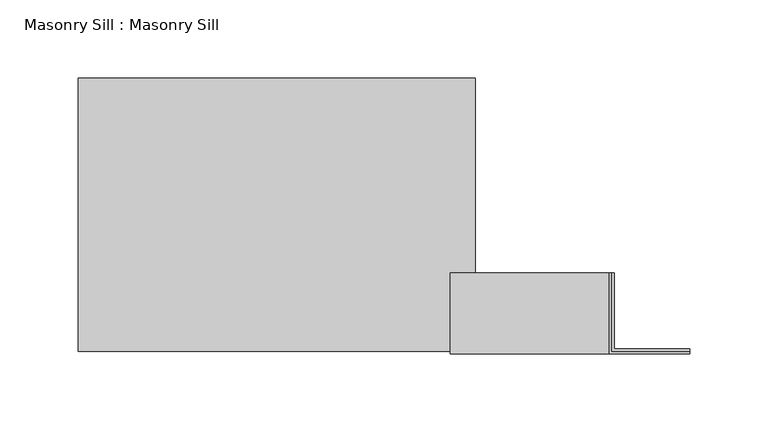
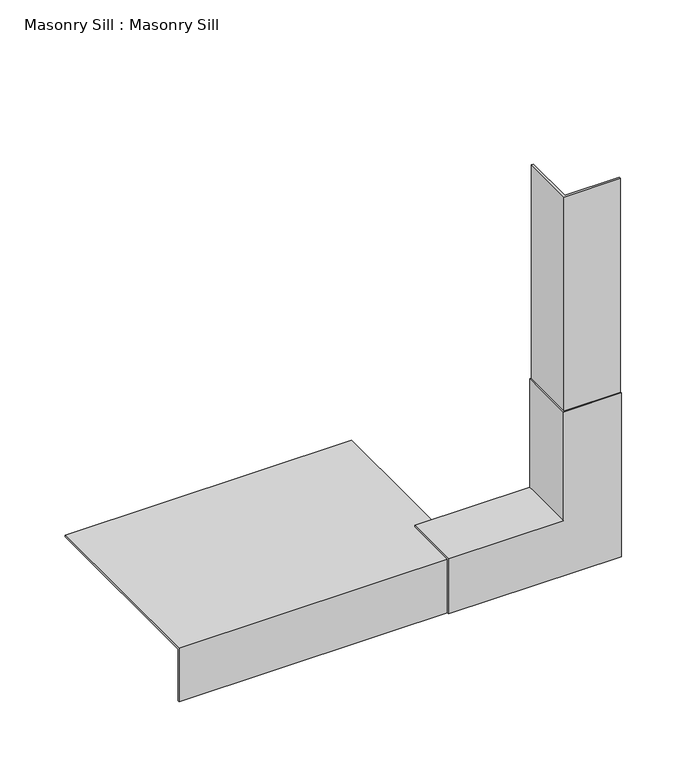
"""IFC4 building model written with IfcOpenShell, lengths in millimetres: proxy geometry, Masonry Sill : Masonry Sill."""

from ifc_helpers import new_model, si_unit, frame, origin, place, context, project, spatial, polyline, outline, extrude, faceted_brep, source, transform, mapped, element, save


def masonry_sill_masonry_sill_39c7edd1(model_context):
    return source(origin(), model_context, "Body", "SolidModel", [
        extrude(outline(polyline([(26855.8851773, 632.3941297), (26855.8851773, 682.3989454), (26857.4726773, 682.3989454), (26857.4726773, 633.9816297), (26905.8899931, 633.9816297), (26905.8899931, 632.3941297), (26855.8851773, 632.3941297)])), frame((0.0, 0.0, 546.1), z_axis=(0.0, 0.0, 1.0), x_axis=(1.0, 0.0, 0.0)), (0.0, 0.0, 1.0), 215.9),
        faceted_brep([(26752.6976773, 630.8066297, 408.7826842), (26752.6976773, 630.8066297, 460.375), (26752.6976773, 682.3989454, 460.375), (26752.6976773, 682.3989454, 458.7875), (26752.6976773, 632.3941297, 458.7875), (26752.6976773, 632.3941297, 408.7826842), (26905.8899931, 632.3941297, 408.7826842), (26905.8899931, 630.8066297, 408.7826842), (26855.8851773, 632.3941297, 458.7875), (26855.8851773, 632.3941297, 561.975), (26905.8899931, 632.3941297, 561.975), (26855.8851773, 682.3989454, 458.7875), (26854.2976773, 682.3989454, 460.375), (26854.2976773, 682.3989454, 561.975), (26855.8851773, 682.3989454, 561.975), (26854.2976773, 630.8066297, 460.375), (26905.8899931, 630.8066297, 561.975), (26854.2976773, 630.8066297, 561.975)], [[[0, 1, 2, 3, 4, 5]], [[0, 5, 6, 7]], [[5, 4, 8, 9, 10, 6]], [[4, 3, 11, 8]], [[3, 2, 12, 13, 14, 11]], [[2, 1, 15, 12]], [[1, 0, 7, 16, 17, 15]], [[16, 10, 9, 14, 13, 17]], [[7, 6, 10, 16]], [[8, 11, 14, 9]], [[12, 15, 17, 13]]]),
        extrude(outline(polyline([(632.3941297, 458.7875), (807.2950925, 458.7875), (807.2950925, 457.2), (633.9816297, 457.2), (633.9816297, 408.7826842), (632.3941297, 408.7826842), (632.3941297, 458.7875)])), frame((26514.5726773, 0.0, 0.0), z_axis=(1.0, 0.0, 0.0), x_axis=(0.0, 1.0, 0.0)), (0.0, 0.0, 1.0), 254.0),
    ])


if __name__ == "__main__":
    model = new_model("IFC4")
    model_context = context("Model", 3, world=origin())
    ifc_project = project(units=[si_unit("LENGTHUNIT", "METRE", prefix="MILLI")], contexts=[model_context])
    site = spatial("IfcSite", under=ifc_project)
    building = spatial("IfcBuilding", under=site)
    placement = place(None, origin())
    masonry_sill_masonry_sill_shape = masonry_sill_masonry_sill_39c7edd1(model_context)
    element("IfcBuildingElementProxy", 1, Name="Masonry Sill : Masonry Sill", ObjectType="Masonry Sill : Masonry Sill", at=placement, inside=building, context=model_context, shape_type="MappedRepresentation", body=[
        mapped(masonry_sill_masonry_sill_shape, transform((0.0, 0.0, 0.0), x_axis=(1.0, 0.0, 0.0), y_axis=(0.0, 1.0, 0.0), z_axis=(0.0, 0.0, 1.0))),
    ])
    save(model, "model.ifc")
